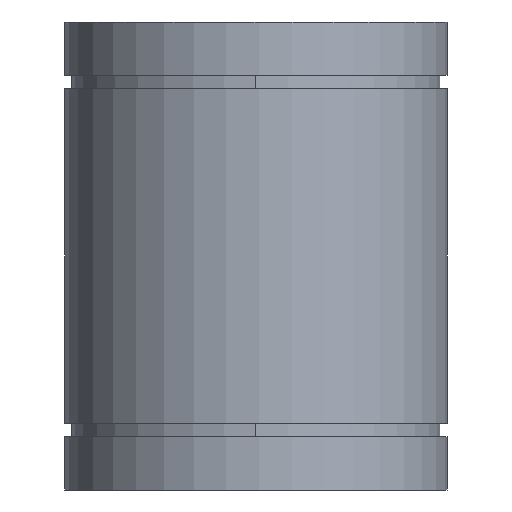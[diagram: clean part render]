
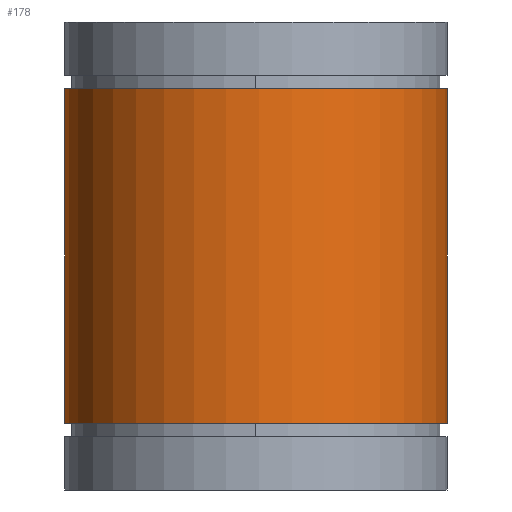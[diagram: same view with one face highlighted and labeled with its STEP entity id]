
A CAD part, front view. The second image highlights one B-rep face of the part: STEP entity #178.
In plain terms, the highlighted cylindrical face has radius 45 mm (diameter 90 mm), a partial arc.
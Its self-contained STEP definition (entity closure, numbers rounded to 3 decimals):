
#137=CARTESIAN_POINT('',(0.0,0.0,0.0));
#138=DIRECTION('',(0.0,0.0,1.0));
#139=DIRECTION('',(-1.0,0.0,0.0));
#140=AXIS2_PLACEMENT_3D('',#137,#138,#139);
#141=CYLINDRICAL_SURFACE('',#140,45.0);
#142=CARTESIAN_POINT('',(45.0,0.,94.35));
#143=VERTEX_POINT('',#142);
#144=CARTESIAN_POINT('',(45.0,0.,15.65));
#145=VERTEX_POINT('',#144);
#146=CARTESIAN_POINT('',(45.0,0.,94.35));
#147=DIRECTION('',(0.0,0.0,-1.0));
#148=VECTOR('',#147,78.7);
#149=LINE('',#146,#148);
#150=EDGE_CURVE('',#143,#145,#149,.T.);
#151=ORIENTED_EDGE('',*,*,#150,.F.);
#152=CARTESIAN_POINT('',(-44.975,-1.5,94.35));
#153=VERTEX_POINT('',#152);
#154=CARTESIAN_POINT('',(0.0,0.0,94.35));
#155=DIRECTION('',(0.0,0.0,-1.0));
#156=DIRECTION('',(-1.0,0.0,0.0));
#157=AXIS2_PLACEMENT_3D('',#154,#155,#156);
#158=CIRCLE('',#157,45.0);
#159=EDGE_CURVE('',#143,#153,#158,.T.);
#160=ORIENTED_EDGE('',*,*,#159,.T.);
#161=CARTESIAN_POINT('',(-44.975,-1.5,15.65));
#162=VERTEX_POINT('',#161);
#163=CARTESIAN_POINT('',(-44.975,-1.5,94.35));
#164=DIRECTION('',(0.0,0.0,-1.0));
#165=VECTOR('',#164,78.7);
#166=LINE('',#163,#165);
#167=EDGE_CURVE('',#153,#162,#166,.T.);
#168=ORIENTED_EDGE('',*,*,#167,.T.);
#169=CARTESIAN_POINT('',(0.0,0.0,15.65));
#170=DIRECTION('',(0.0,0.0,1.0));
#171=DIRECTION('',(-1.0,0.0,0.0));
#172=AXIS2_PLACEMENT_3D('',#169,#170,#171);
#173=CIRCLE('',#172,45.0);
#174=EDGE_CURVE('',#162,#145,#173,.T.);
#175=ORIENTED_EDGE('',*,*,#174,.T.);
#176=EDGE_LOOP('',(#151,#160,#168,#175));
#177=FACE_OUTER_BOUND('',#176,.T.);
#178=ADVANCED_FACE('',(#177),#141,.T.);
